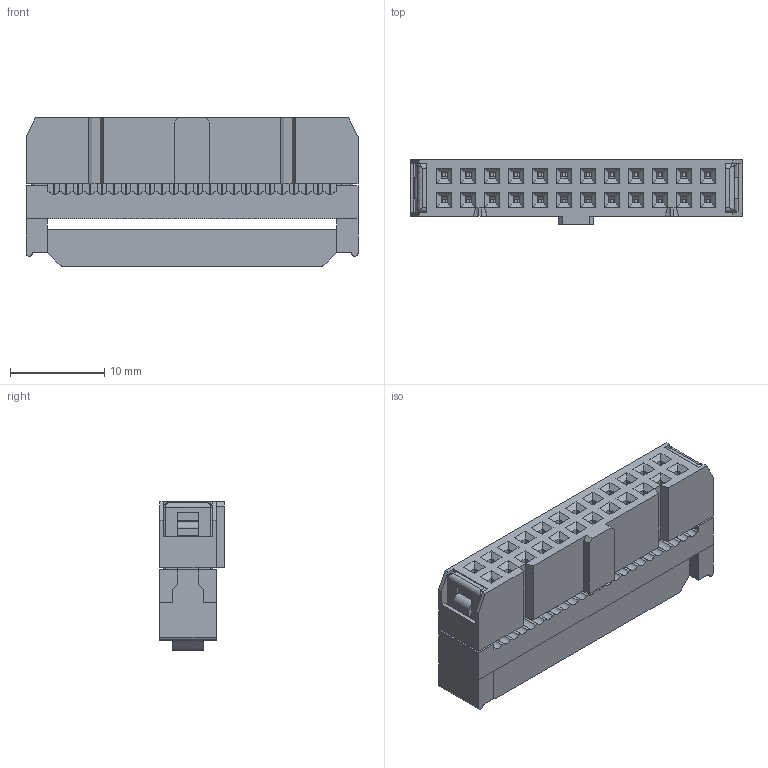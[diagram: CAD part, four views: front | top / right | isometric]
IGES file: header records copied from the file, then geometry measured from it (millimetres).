
Global section: file name: Filename.iges; native system: Open CASCADE 7.3; preprocessor: Open CASCADE IGES processor 7.3; date: 20201209.080523; units: millimetre
Bounding box: 35.16 x 6.86 x 15.7 mm (x, y, z)
Surface area: 4490.9 mm2 (no closed solid volume)
Topology: 0 solids, 0 shells, 1477 faces, 8174 edges, 8166 vertices
Faces by surface type: plane 1124, revolution 338, extrusion 11, bspline 4
